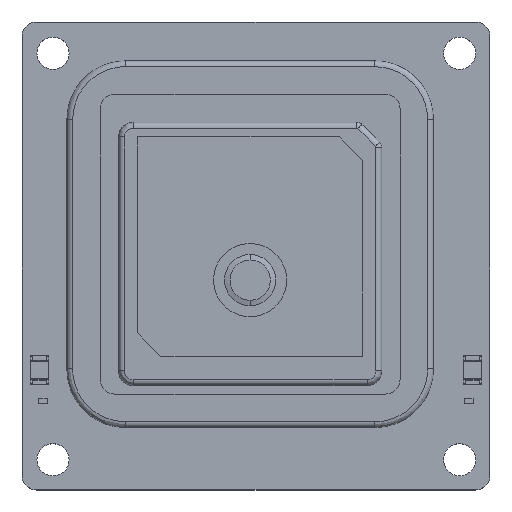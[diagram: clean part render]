
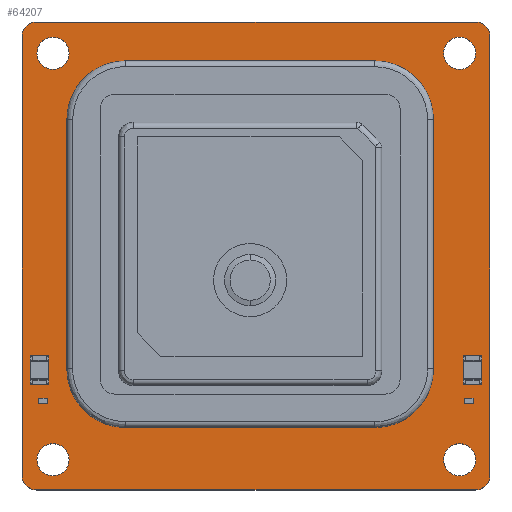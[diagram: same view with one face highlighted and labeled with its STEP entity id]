
A CAD part, top view. The second image highlights one B-rep face of the part: STEP entity #64207.
In plain terms, the highlighted planar face has unit normal (0, 0, 1).
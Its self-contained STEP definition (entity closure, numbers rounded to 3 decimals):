
#64003 = VERTEX_POINT('',#64004);
#64004 = CARTESIAN_POINT('',(34.3,35.1,1.6));
#64010 = EDGE_CURVE('',#64003,#64011,#64013,.T.);
#64011 = VERTEX_POINT('',#64012);
#64012 = CARTESIAN_POINT('',(35.3,34.1,1.6));
#64013 = CIRCLE('',#64014,1.);
#64014 = AXIS2_PLACEMENT_3D('',#64015,#64016,#64017);
#64015 = CARTESIAN_POINT('',(34.3,34.1,1.6));
#64016 = DIRECTION('',(0.,0.,-1.));
#64017 = DIRECTION('',(0.,1.,0.));
#64045 = VERTEX_POINT('',#64046);
#64046 = CARTESIAN_POINT('',(4.3,35.1,1.6));
#64052 = EDGE_CURVE('',#64045,#64003,#64053,.T.);
#64053 = LINE('',#64054,#64055);
#64054 = CARTESIAN_POINT('',(4.3,35.1,1.6));
#64055 = VECTOR('',#64056,1.);
#64056 = DIRECTION('',(1.,0.,0.));
#64074 = EDGE_CURVE('',#64011,#64075,#64077,.T.);
#64075 = VERTEX_POINT('',#64076);
#64076 = CARTESIAN_POINT('',(35.3,4.1,1.6));
#64077 = LINE('',#64078,#64079);
#64078 = CARTESIAN_POINT('',(35.3,34.1,1.6));
#64079 = VECTOR('',#64080,1.);
#64080 = DIRECTION('',(0.,-1.,0.));
#64207 = ADVANCED_FACE('',(#64208,#64254,#64265,#64276,#64287,#64298),
  #64309,.T.);
#64208 = FACE_BOUND('',#64209,.T.);
#64209 = EDGE_LOOP('',(#64210,#64211,#64212,#64221,#64229,#64238,#64246,
    #64253));
#64210 = ORIENTED_EDGE('',*,*,#64010,.F.);
#64211 = ORIENTED_EDGE('',*,*,#64052,.F.);
#64212 = ORIENTED_EDGE('',*,*,#64213,.F.);
#64213 = EDGE_CURVE('',#64214,#64045,#64216,.T.);
#64214 = VERTEX_POINT('',#64215);
#64215 = CARTESIAN_POINT('',(3.3,34.1,1.6));
#64216 = CIRCLE('',#64217,1.);
#64217 = AXIS2_PLACEMENT_3D('',#64218,#64219,#64220);
#64218 = CARTESIAN_POINT('',(4.3,34.1,1.6));
#64219 = DIRECTION('',(0.,0.,-1.));
#64220 = DIRECTION('',(-1.,0.,-0.));
#64221 = ORIENTED_EDGE('',*,*,#64222,.F.);
#64222 = EDGE_CURVE('',#64223,#64214,#64225,.T.);
#64223 = VERTEX_POINT('',#64224);
#64224 = CARTESIAN_POINT('',(3.3,4.1,1.6));
#64225 = LINE('',#64226,#64227);
#64226 = CARTESIAN_POINT('',(3.3,4.1,1.6));
#64227 = VECTOR('',#64228,1.);
#64228 = DIRECTION('',(0.,1.,0.));
#64229 = ORIENTED_EDGE('',*,*,#64230,.F.);
#64230 = EDGE_CURVE('',#64231,#64223,#64233,.T.);
#64231 = VERTEX_POINT('',#64232);
#64232 = CARTESIAN_POINT('',(4.3,3.1,1.6));
#64233 = CIRCLE('',#64234,1.);
#64234 = AXIS2_PLACEMENT_3D('',#64235,#64236,#64237);
#64235 = CARTESIAN_POINT('',(4.3,4.1,1.6));
#64236 = DIRECTION('',(0.,0.,-1.));
#64237 = DIRECTION('',(0.,-1.,0.));
#64238 = ORIENTED_EDGE('',*,*,#64239,.F.);
#64239 = EDGE_CURVE('',#64240,#64231,#64242,.T.);
#64240 = VERTEX_POINT('',#64241);
#64241 = CARTESIAN_POINT('',(34.3,3.1,1.6));
#64242 = LINE('',#64243,#64244);
#64243 = CARTESIAN_POINT('',(34.3,3.1,1.6));
#64244 = VECTOR('',#64245,1.);
#64245 = DIRECTION('',(-1.,0.,0.));
#64246 = ORIENTED_EDGE('',*,*,#64247,.F.);
#64247 = EDGE_CURVE('',#64075,#64240,#64248,.T.);
#64248 = CIRCLE('',#64249,1.);
#64249 = AXIS2_PLACEMENT_3D('',#64250,#64251,#64252);
#64250 = CARTESIAN_POINT('',(34.3,4.1,1.6));
#64251 = DIRECTION('',(0.,0.,-1.));
#64252 = DIRECTION('',(1.,0.,0.));
#64253 = ORIENTED_EDGE('',*,*,#64074,.F.);
#64254 = FACE_BOUND('',#64255,.T.);
#64255 = EDGE_LOOP('',(#64256));
#64256 = ORIENTED_EDGE('',*,*,#64257,.T.);
#64257 = EDGE_CURVE('',#64258,#64258,#64260,.T.);
#64258 = VERTEX_POINT('',#64259);
#64259 = CARTESIAN_POINT('',(5.42,4.06,1.6));
#64260 = CIRCLE('',#64261,1.1);
#64261 = AXIS2_PLACEMENT_3D('',#64262,#64263,#64264);
#64262 = CARTESIAN_POINT('',(5.42,5.16,1.6));
#64263 = DIRECTION('',(-0.,0.,-1.));
#64264 = DIRECTION('',(-0.,-1.,0.));
#64265 = FACE_BOUND('',#64266,.T.);
#64266 = EDGE_LOOP('',(#64267));
#64267 = ORIENTED_EDGE('',*,*,#64268,.T.);
#64268 = EDGE_CURVE('',#64269,#64269,#64271,.T.);
#64269 = VERTEX_POINT('',#64270);
#64270 = CARTESIAN_POINT('',(18.9,16.925,1.6));
#64271 = CIRCLE('',#64272,0.475);
#64272 = AXIS2_PLACEMENT_3D('',#64273,#64274,#64275);
#64273 = CARTESIAN_POINT('',(18.9,17.4,1.6));
#64274 = DIRECTION('',(-0.,0.,-1.));
#64275 = DIRECTION('',(-0.,-1.,0.));
#64276 = FACE_BOUND('',#64277,.T.);
#64277 = EDGE_LOOP('',(#64278));
#64278 = ORIENTED_EDGE('',*,*,#64279,.T.);
#64279 = EDGE_CURVE('',#64280,#64280,#64282,.T.);
#64280 = VERTEX_POINT('',#64281);
#64281 = CARTESIAN_POINT('',(33.22,4.06,1.6));
#64282 = CIRCLE('',#64283,1.1);
#64283 = AXIS2_PLACEMENT_3D('',#64284,#64285,#64286);
#64284 = CARTESIAN_POINT('',(33.22,5.16,1.6));
#64285 = DIRECTION('',(-0.,0.,-1.));
#64286 = DIRECTION('',(-0.,-1.,0.));
#64287 = FACE_BOUND('',#64288,.T.);
#64288 = EDGE_LOOP('',(#64289));
#64289 = ORIENTED_EDGE('',*,*,#64290,.T.);
#64290 = EDGE_CURVE('',#64291,#64291,#64293,.T.);
#64291 = VERTEX_POINT('',#64292);
#64292 = CARTESIAN_POINT('',(5.42,31.86,1.6));
#64293 = CIRCLE('',#64294,1.1);
#64294 = AXIS2_PLACEMENT_3D('',#64295,#64296,#64297);
#64295 = CARTESIAN_POINT('',(5.42,32.96,1.6));
#64296 = DIRECTION('',(-0.,0.,-1.));
#64297 = DIRECTION('',(-0.,-1.,0.));
#64298 = FACE_BOUND('',#64299,.T.);
#64299 = EDGE_LOOP('',(#64300));
#64300 = ORIENTED_EDGE('',*,*,#64301,.T.);
#64301 = EDGE_CURVE('',#64302,#64302,#64304,.T.);
#64302 = VERTEX_POINT('',#64303);
#64303 = CARTESIAN_POINT('',(33.22,31.86,1.6));
#64304 = CIRCLE('',#64305,1.1);
#64305 = AXIS2_PLACEMENT_3D('',#64306,#64307,#64308);
#64306 = CARTESIAN_POINT('',(33.22,32.96,1.6));
#64307 = DIRECTION('',(-0.,0.,-1.));
#64308 = DIRECTION('',(-0.,-1.,0.));
#64309 = PLANE('',#64310);
#64310 = AXIS2_PLACEMENT_3D('',#64311,#64312,#64313);
#64311 = CARTESIAN_POINT('',(0.,0.,1.6));
#64312 = DIRECTION('',(0.,0.,1.));
#64313 = DIRECTION('',(1.,0.,-0.));
